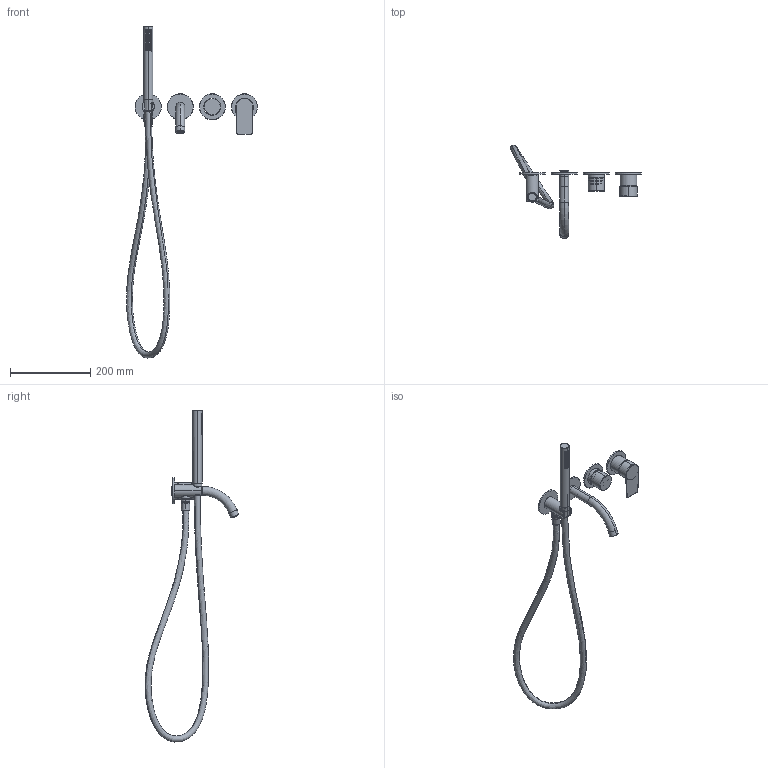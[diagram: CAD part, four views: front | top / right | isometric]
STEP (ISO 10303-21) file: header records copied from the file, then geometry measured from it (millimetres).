
FILE_DESCRIPTION((''),'2;1');
FILE_NAME('DIS_3D_V920B_D220A_ASM','2025-10-13T11:10:05',('Luca'),(''),'CREO PARAMETRIC BY PTC INC, 2025010','CREO PARAMETRIC BY PTC INC, 2025010','');
FILE_SCHEMA(('AUTOMOTIVE_DESIGN { 1 0 10303 214 1 1 1 1 }'));
Products named in the file (18): LABEL-5601; LABEL-6435; LABEL-7785; LABEL-9648; LABEL-34807; LABEL-36139; LABEL-39218; LABEL-41684; LABEL-41772; LABEL-48106; LABEL-60970; LABEL-64236; LABEL-67511; LABEL-77847; LABEL-118864; LABEL-118952; TOP_ASM; DIS_3D_V920B_D220A_ASM
Assembly tree (17 placements, depth 3):
  DIS_3D_V920B_D220A_ASM
    TOP_ASM
      LABEL-5601
      LABEL-6435
      LABEL-7785
      LABEL-9648
      LABEL-34807
      LABEL-36139
      LABEL-39218
      LABEL-41684
      LABEL-41772
      LABEL-48106
      LABEL-60970
      LABEL-64236
      LABEL-67511
      LABEL-77847
      LABEL-118864
      LABEL-118952
Bounding box: 326.68 x 234.01 x 828.06 mm (x, y, z)
Volume: 483090.7 mm3; surface area: 209923.2 mm2
Topology: 16 solids, 16 shells, 1854 faces, 5943 edges, 4228 vertices
Faces by surface type: plane 990, cylinder 316, cone 227, bspline 159, torus 153, sphere 7, extrusion 2
Entity records: 108907 total; most frequent: CARTESIAN_POINT 49362, ORIENTED_EDGE 11862, DIRECTION 10371, EDGE_CURVE 5931, VERTEX_POINT 4226, AXIS2_PLACEMENT_3D 3690, VECTOR 2938, LINE 2936
